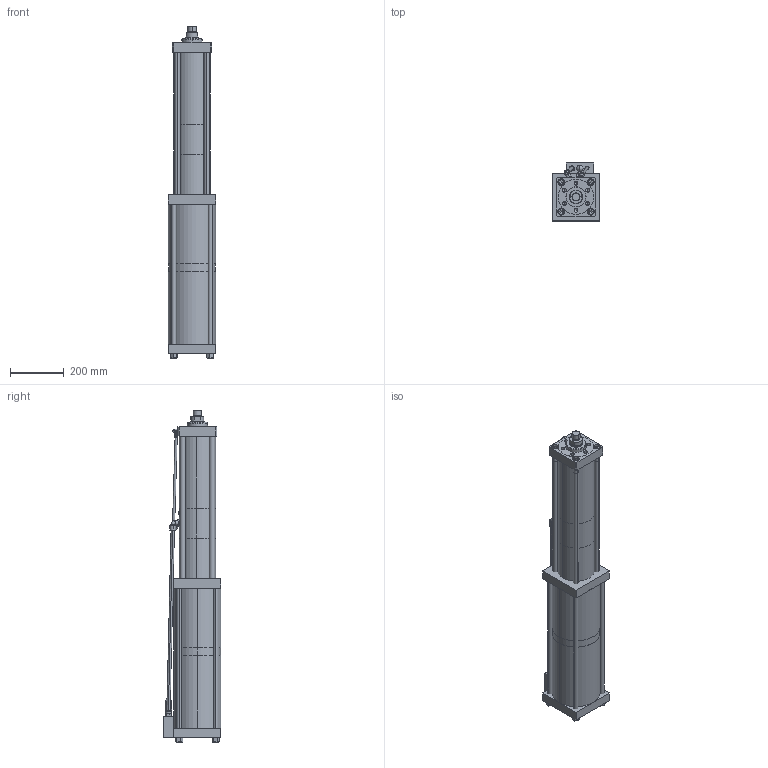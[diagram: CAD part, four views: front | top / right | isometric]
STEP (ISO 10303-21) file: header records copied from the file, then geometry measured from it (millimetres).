
FILE_DESCRIPTION (( 'STEP AP214' ), '1' );
FILE_NAME ('BS15-200-15A.STEP', '2025-10-08T06:15:34', ( 'Ranlm' ), ( '' ), 'SwSTEP 2.0', 'SolidWorks 2022', '' );
FILE_SCHEMA (( 'AUTOMOTIVE_DESIGN' ));
Length unit declared in the file: millimetre
Products named in the file (1): BS15-200-15A
Bounding box: 175 x 215 x 1231.2 mm (x, y, z)
Volume: 24657773.1 mm3; surface area: 1314439.4 mm2
Topology: 34 solids, 34 shells, 672 faces, 1447 edges, 875 vertices
Faces by surface type: plane 295, cylinder 217, cone 112, torus 36, bspline 10, sphere 2
Entity records: 27255 total; most frequent: CARTESIAN_POINT 4787, DIRECTION 3260, ORIENTED_EDGE 2826, EDGE_CURVE 1413, AXIS2_PLACEMENT_3D 1283, VERTEX_POINT 873, EDGE_LOOP 766, UNCERTAINTY_MEASURE_WITH_UNIT 708
